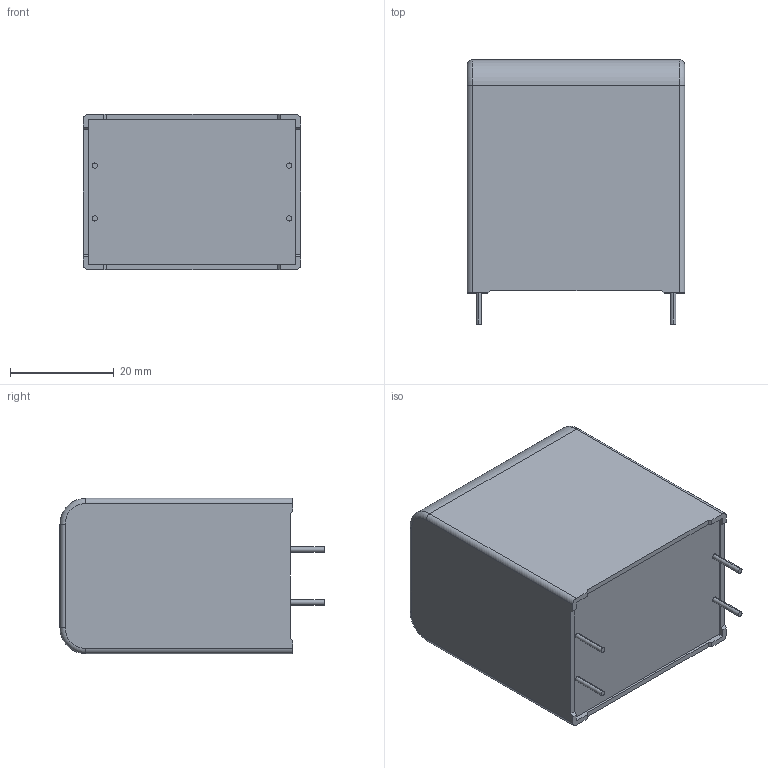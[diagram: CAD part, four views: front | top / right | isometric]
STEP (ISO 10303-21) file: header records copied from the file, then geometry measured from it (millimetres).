
FILE_DESCRIPTION (( 'STEP AP203' ), '1' );
FILE_NAME ('DC_Link_30x45x42_4pins10.2.step', '2017-04-03T16:00:05', ( 'work' ), ( 'Hewlett-Packard Company' ), 'SwSTEP 2.0', 'SolidWorks 2017', '' );
FILE_SCHEMA (( 'CONFIG_CONTROL_DESIGN' ));
Length unit declared in the file: millimetre
Products named in the file (1): DC_Link_30x45x42_4pins10.2
Bounding box: 42 x 51 x 30 mm (x, y, z)
Volume: 55043.9 mm3; surface area: 8807.2 mm2
Topology: 1 solids, 1 shells, 122 faces, 319 edges, 210 vertices
Faces by surface type: plane 82, cylinder 20, bspline 16, torus 4
Entity records: 4492 total; most frequent: CARTESIAN_POINT 1476, ORIENTED_EDGE 638, DIRECTION 545, EDGE_CURVE 319, VECTOR 243, LINE 243, VERTEX_POINT 210, AXIS2_PLACEMENT_3D 151
